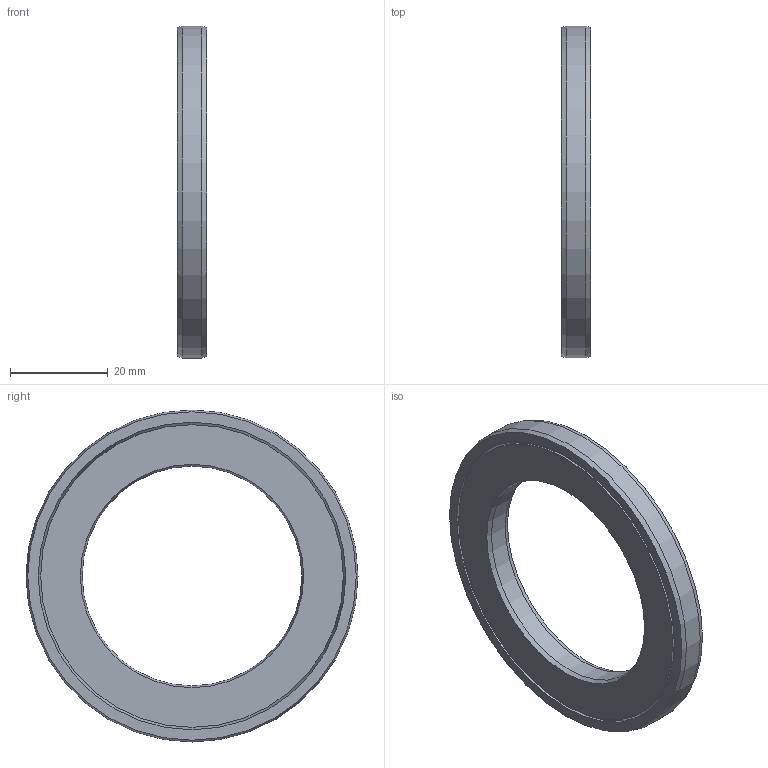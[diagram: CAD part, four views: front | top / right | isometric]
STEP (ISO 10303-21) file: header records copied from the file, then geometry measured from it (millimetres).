
FILE_DESCRIPTION(/* description */ (''),/* implementation_level */ '2;1');
FILE_NAME(/* name */ '307153 CF 61909 S10.stp',/* time_stamp */ '2016-12-16T11:54:09+01:00',/* author */ (''),/* organization */ (''),/* preprocessor_version */ 'ST-DEVELOPER v15',/* originating_system */ 'SIEMENS PLM Software NX 8.5',/* authorisation */ '');
FILE_SCHEMA (('CONFIG_CONTROL_DESIGN'));
Length unit declared in the file: millimetre
Products named in the file (1): ATE0000139_01
Bounding box: 6 x 68 x 68 mm (x, y, z)
Volume: 10803.1 mm3; surface area: 11078.3 mm2
Topology: 2 solids, 2 shells, 26 faces, 46 edges, 28 vertices
Faces by surface type: cone 10, plane 8, cylinder 8
Full cylindrical faces by diameter (mm): 45 x1, 50.5 x1, 51.5 x1, 53 x1, 54 x1, 62 x1, 63 x1, 68 x1
Entity records: 614 total; most frequent: DIRECTION 106, CARTESIAN_POINT 79, AXIS2_PLACEMENT_3D 53, FACE_BOUND 52, EDGE_LOOP 52, ORIENTED_EDGE 52, ADVANCED_FACE 26, VERTEX_POINT 26
